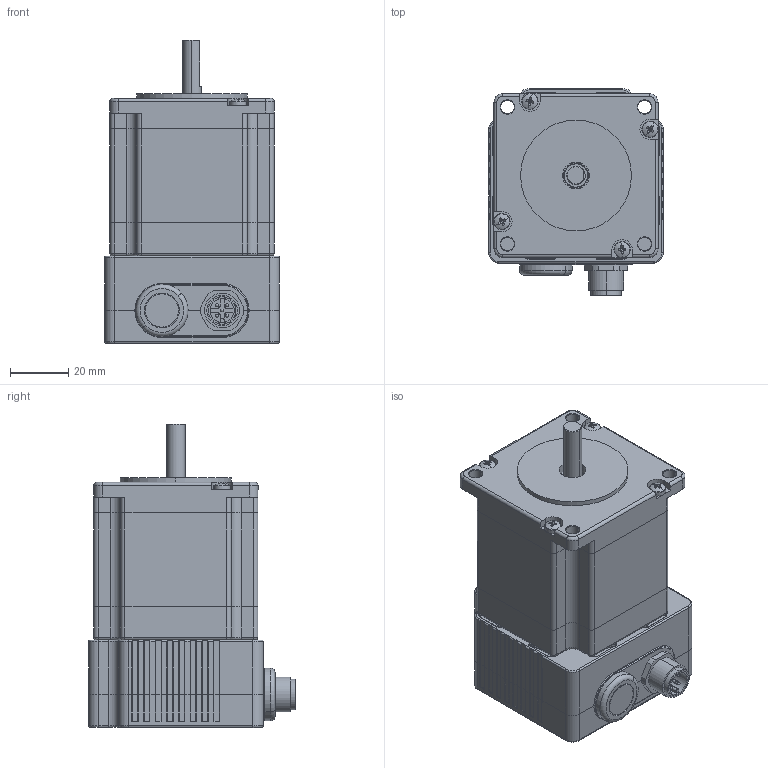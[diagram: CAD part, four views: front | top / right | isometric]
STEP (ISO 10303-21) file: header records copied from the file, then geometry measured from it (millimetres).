
FILE_DESCRIPTION (( 'STEP AP214' ), '1' );
FILE_NAME ('M57SH56-T-C.STEP', '2025-06-12T08:31:06', ( '' ), ( '' ), 'SwSTEP 2.0', 'SolidWorks 2019', '' );
FILE_SCHEMA (( 'AUTOMOTIVE_DESIGN' ));
Length unit declared in the file: millimetre
Products named in the file (1): M57SH56-T-C
Bounding box: 60 x 71.1 x 104.36 mm (x, y, z)
Volume: 105357 mm3; surface area: 84302.3 mm2
Topology: 19 solids, 19 shells, 3996 faces, 10128 edges, 6360 vertices
Faces by surface type: plane 1451, cylinder 1099, torus 580, bspline 567, cone 238, sphere 61
Entity records: 170205 total; most frequent: CARTESIAN_POINT 54058, ORIENTED_EDGE 20116, DIRECTION 19408, EDGE_CURVE 10058, AXIS2_PLACEMENT_3D 7272, VERTEX_POINT 6360, LINE 4864, VECTOR 4864
